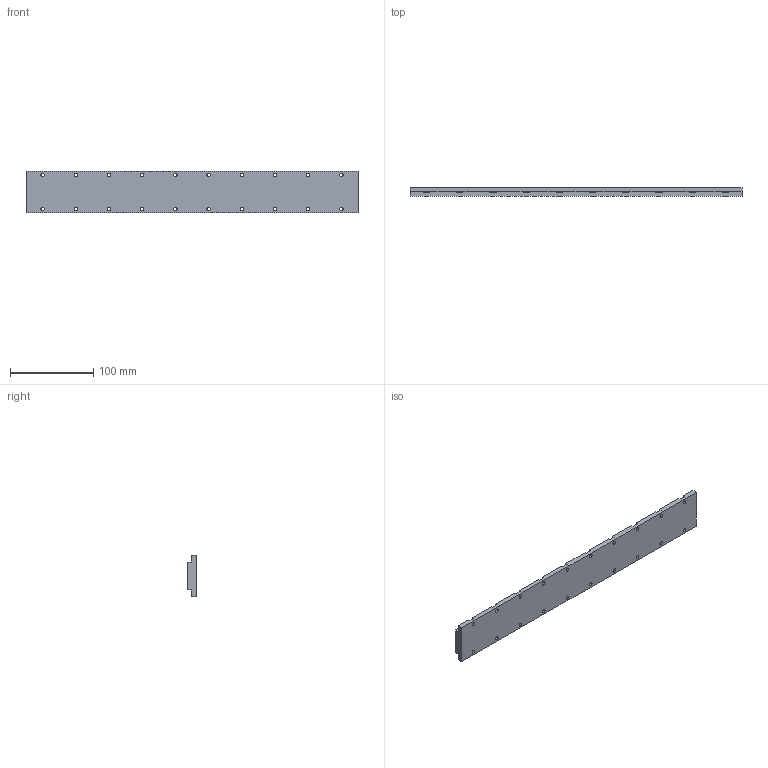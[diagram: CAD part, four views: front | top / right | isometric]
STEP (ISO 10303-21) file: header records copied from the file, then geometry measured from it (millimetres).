
FILE_DESCRIPTION (( 'STEP AP214' ), '1' );
FILE_NAME ('1-MJM030-L400.STEP', '2025-09-05T09:19:53', ( '' ), ( '' ), 'SwSTEP 2.0', 'SolidWorks 2016', '' );
FILE_SCHEMA (( 'AUTOMOTIVE_DESIGN' ));
Length unit declared in the file: millimetre
Products named in the file (1): 1-MJM030-L400
Bounding box: 400 x 10.3 x 50 mm (x, y, z)
Volume: 174052.7 mm3; surface area: 50158.3 mm2
Topology: 1 solids, 1 shells, 140 faces, 414 edges, 276 vertices
Faces by surface type: cylinder 70, plane 70
Entity records: 4832 total; most frequent: DIRECTION 836, CARTESIAN_POINT 831, ORIENTED_EDGE 828, EDGE_CURVE 414, AXIS2_PLACEMENT_3D 281, VERTEX_POINT 276, VECTOR 274, LINE 274
